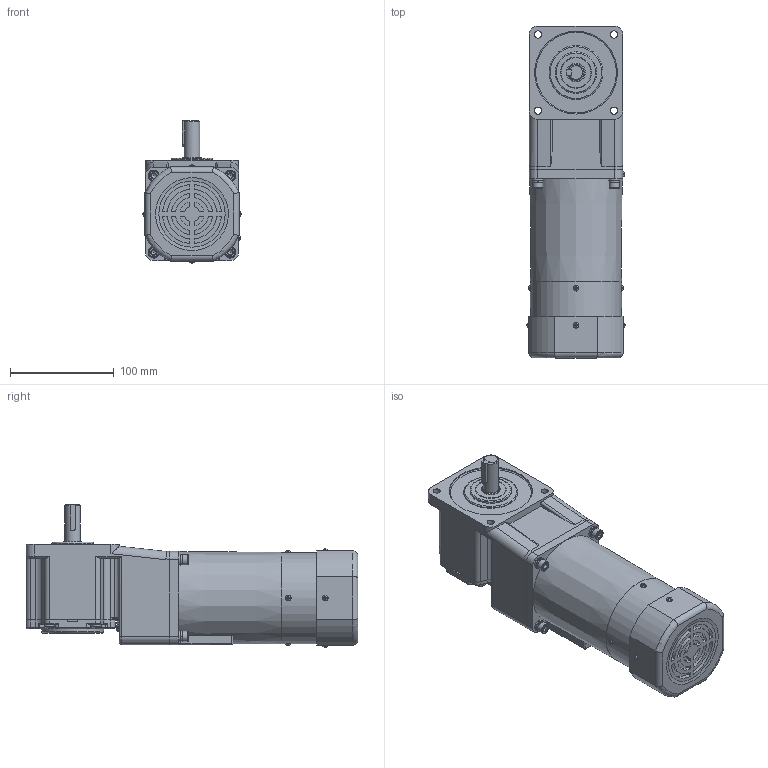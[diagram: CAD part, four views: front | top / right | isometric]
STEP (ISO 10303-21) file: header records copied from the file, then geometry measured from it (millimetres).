
FILE_DESCRIPTION(/* description */ (''),/* implementation_level */ '2;1');
FILE_NAME(/* name */ '90+中实直角-刹车风叶-90W.stp',/* time_stamp */ '2022-11-01T13:39:39+08:00',/* author */ (''),/* organization */ (''),/* preprocessor_version */ 'ST-DEVELOPER v16.7',/* originating_system */ 'SIEMENS PLM Software NX 1899',/* authorisation */ '');
FILE_SCHEMA (('AP203_CONFIGURATION_CONTROLLED_3D_DESIGN_OF_MECHANICAL_PARTS_AND_ASSEMBLIES_MIM_LF { 1 0 10303 403 2 1 2}'));
Length unit declared in the file: millimetre
Products named in the file (1): yf1854BC0762nk3i
Bounding box: 94.84 x 320.5 x 137.42 mm (x, y, z)
Volume: 2177120.9 mm3; surface area: 167379.9 mm2
Topology: 15 solids, 15 shells, 760 faces, 1802 edges, 1111 vertices
Faces by surface type: plane 419, cylinder 217, torus 59, cone 45, bspline 12, sphere 8
Full cylindrical faces by diameter (mm): 5 x4, 5.5 x4, 5.795 x4, 6.4 x4, 7 x8, 9.5 x4, 10 x4, 11 x4, 15 x1, 18 x1, 30 x1, 40 x1, 52 x1, 60 x1, 67 x1, 76 x1, 80 x1, 86 x2, 87.914 x1
Entity records: 24231 total; most frequent: CARTESIAN_POINT 6199, DIRECTION 3453, ORIENTED_EDGE 3306, EDGE_CURVE 1653, AXIS2_PLACEMENT_3D 1295, VERTEX_POINT 1072, EDGE_LOOP 925, LINE 863
